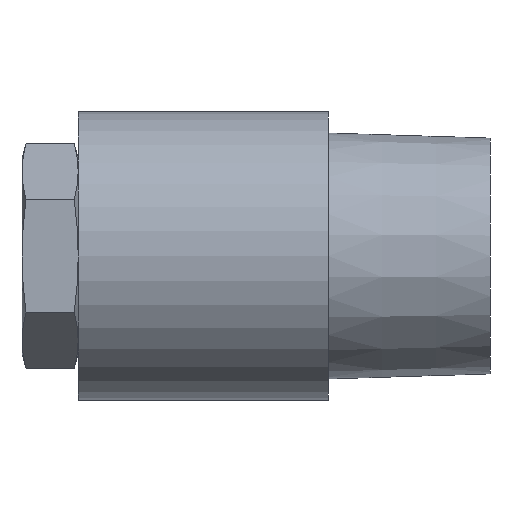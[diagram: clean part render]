
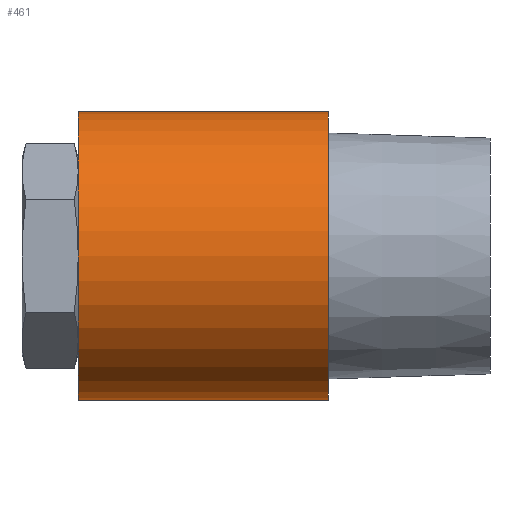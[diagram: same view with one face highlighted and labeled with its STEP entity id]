
A CAD part, left-side view. The second image highlights one B-rep face of the part: STEP entity #461.
In plain terms, the highlighted cylindrical face has radius 12.6 mm (diameter 25.2 mm), a full revolution.
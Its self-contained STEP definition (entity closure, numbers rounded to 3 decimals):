
#61=B_SPLINE_CURVE_WITH_KNOTS('',3,(#711,#712,#713,#714),.UNSPECIFIED.,
 .F.,.F.,(4,4),(0.,0.003),.UNSPECIFIED.);
#62=B_SPLINE_CURVE_WITH_KNOTS('',3,(#717,#718,#719,#720,#721,#722,#723),
 .UNSPECIFIED.,.F.,.F.,(4,1,1,1,4),(0.054,0.057,
0.06,0.064,0.067),.UNSPECIFIED.);
#63=B_SPLINE_CURVE_WITH_KNOTS('',3,(#725,#726,#727,#728),.UNSPECIFIED.,
 .F.,.F.,(4,4),(0.012,0.015),.UNSPECIFIED.);
#64=B_SPLINE_CURVE_WITH_KNOTS('',3,(#730,#731,#732,#733,#734,#735,#736),
 .UNSPECIFIED.,.F.,.F.,(4,1,1,1,4),(0.,0.002,0.005,
0.007,0.01),.UNSPECIFIED.);
#65=B_SPLINE_CURVE_WITH_KNOTS('',3,(#738,#739,#740,#741),.UNSPECIFIED.,
 .F.,.F.,(4,4),(0.,0.003),.UNSPECIFIED.);
#66=B_SPLINE_CURVE_WITH_KNOTS('',3,(#743,#744,#745,#746,#747,#748,#749),
 .UNSPECIFIED.,.F.,.F.,(4,1,1,1,4),(0.024,0.027,
0.03,0.034,0.037),.UNSPECIFIED.);
#67=B_SPLINE_CURVE_WITH_KNOTS('',3,(#751,#752,#753,#754),.UNSPECIFIED.,
 .F.,.F.,(4,4),(0.012,0.015),.UNSPECIFIED.);
#68=B_SPLINE_CURVE_WITH_KNOTS('',3,(#756,#757,#758,#759,#760,#761,#762),
 .UNSPECIFIED.,.F.,.F.,(4,1,1,1,4),(0.,0.002,
0.005,0.007,0.01),
 .UNSPECIFIED.);
#93=ORIENTED_EDGE('',*,*,#223,.F.);
#94=ORIENTED_EDGE('',*,*,#224,.F.);
#95=ORIENTED_EDGE('',*,*,#225,.F.);
#96=ORIENTED_EDGE('',*,*,#226,.F.);
#97=ORIENTED_EDGE('',*,*,#227,.F.);
#98=ORIENTED_EDGE('',*,*,#228,.F.);
#99=ORIENTED_EDGE('',*,*,#229,.F.);
#100=ORIENTED_EDGE('',*,*,#230,.F.);
#101=ORIENTED_EDGE('',*,*,#231,.F.);
#102=ORIENTED_EDGE('',*,*,#232,.T.);
#223=EDGE_CURVE('',#288,#288,#331,.T.);
#224=EDGE_CURVE('',#289,#290,#61,.T.);
#225=EDGE_CURVE('',#291,#289,#62,.T.);
#226=EDGE_CURVE('',#292,#291,#63,.T.);
#227=EDGE_CURVE('',#293,#292,#64,.T.);
#228=EDGE_CURVE('',#294,#293,#65,.T.);
#229=EDGE_CURVE('',#295,#294,#66,.T.);
#230=EDGE_CURVE('',#296,#295,#67,.T.);
#231=EDGE_CURVE('',#290,#296,#68,.T.);
#232=EDGE_CURVE('',#297,#297,#332,.T.);
#288=VERTEX_POINT('',#710);
#289=VERTEX_POINT('',#715);
#290=VERTEX_POINT('',#716);
#291=VERTEX_POINT('',#724);
#292=VERTEX_POINT('',#729);
#293=VERTEX_POINT('',#737);
#294=VERTEX_POINT('',#742);
#295=VERTEX_POINT('',#750);
#296=VERTEX_POINT('',#755);
#297=VERTEX_POINT('',#764);
#331=CIRCLE('',#511,12.6);
#332=CIRCLE('',#512,12.6);
#358=EDGE_LOOP('',(#93));
#359=EDGE_LOOP('',(#94,#95,#96,#97,#98,#99,#100,#101));
#360=EDGE_LOOP('',(#102));
#406=FACE_BOUND('',#358,.T.);
#407=FACE_BOUND('',#359,.T.);
#408=FACE_BOUND('',#360,.T.);
#454=CYLINDRICAL_SURFACE('',#510,12.6);
#461=ADVANCED_FACE('',(#406,#407,#408),#454,.T.);
#510=AXIS2_PLACEMENT_3D('',#708,#575,#576);
#511=AXIS2_PLACEMENT_3D('',#709,#577,#578);
#512=AXIS2_PLACEMENT_3D('',#763,#579,#580);
#575=DIRECTION('',(0.,-1.,0.));
#576=DIRECTION('',(1.,0.,0.));
#577=DIRECTION('',(0.,-1.,0.));
#578=DIRECTION('',(1.,0.,0.));
#579=DIRECTION('',(0.,-1.,0.));
#580=DIRECTION('',(1.,0.,0.));
#708=CARTESIAN_POINT('',(0.,-8.16,0.));
#709=CARTESIAN_POINT('',(0.,7.7,0.));
#710=CARTESIAN_POINT('',(12.6,7.7,0.));
#711=CARTESIAN_POINT('',(11.1,25.272,5.962));
#712=CARTESIAN_POINT('',(10.883,24.441,6.366));
#713=CARTESIAN_POINT('',(10.685,23.576,6.684));
#714=CARTESIAN_POINT('',(10.523,22.675,6.931));
#715=CARTESIAN_POINT('',(11.1,25.272,5.962));
#716=CARTESIAN_POINT('',(10.523,22.675,6.931));
#717=CARTESIAN_POINT('',(11.1,25.272,-5.962));
#718=CARTESIAN_POINT('',(11.526,25.94,-5.17));
#719=CARTESIAN_POINT('',(12.288,27.031,-3.347));
#720=CARTESIAN_POINT('',(12.756,27.659,0.013));
#721=CARTESIAN_POINT('',(12.289,27.032,3.341));
#722=CARTESIAN_POINT('',(11.522,25.935,5.176));
#723=CARTESIAN_POINT('',(11.1,25.272,5.962));
#724=CARTESIAN_POINT('',(11.1,25.272,-5.962));
#725=CARTESIAN_POINT('',(10.523,22.675,-6.931));
#726=CARTESIAN_POINT('',(10.684,23.571,-6.685));
#727=CARTESIAN_POINT('',(10.882,24.437,-6.368));
#728=CARTESIAN_POINT('',(11.1,25.272,-5.962));
#729=CARTESIAN_POINT('',(10.523,22.675,-6.931));
#730=CARTESIAN_POINT('',(10.523,13.725,-6.931));
#731=CARTESIAN_POINT('',(10.248,14.37,-7.347));
#732=CARTESIAN_POINT('',(9.744,15.776,-8.004));
#733=CARTESIAN_POINT('',(9.414,18.187,-8.373));
#734=CARTESIAN_POINT('',(9.742,20.624,-8.006));
#735=CARTESIAN_POINT('',(10.248,22.029,-7.348));
#736=CARTESIAN_POINT('',(10.523,22.675,-6.931));
#737=CARTESIAN_POINT('',(10.523,13.725,-6.931));
#738=CARTESIAN_POINT('',(11.1,11.128,-5.962));
#739=CARTESIAN_POINT('',(10.883,11.959,-6.366));
#740=CARTESIAN_POINT('',(10.685,12.824,-6.684));
#741=CARTESIAN_POINT('',(10.523,13.725,-6.931));
#742=CARTESIAN_POINT('',(11.1,11.128,-5.962));
#743=CARTESIAN_POINT('',(11.1,11.128,5.962));
#744=CARTESIAN_POINT('',(11.522,10.465,5.176));
#745=CARTESIAN_POINT('',(12.286,9.372,3.352));
#746=CARTESIAN_POINT('',(12.756,8.741,0.01));
#747=CARTESIAN_POINT('',(12.292,9.364,-3.333));
#748=CARTESIAN_POINT('',(11.527,10.457,-5.167));
#749=CARTESIAN_POINT('',(11.1,11.128,-5.962));
#750=CARTESIAN_POINT('',(11.1,11.128,5.962));
#751=CARTESIAN_POINT('',(10.523,13.725,6.931));
#752=CARTESIAN_POINT('',(10.685,12.824,6.684));
#753=CARTESIAN_POINT('',(10.886,11.95,6.362));
#754=CARTESIAN_POINT('',(11.1,11.128,5.962));
#755=CARTESIAN_POINT('',(10.523,13.725,6.931));
#756=CARTESIAN_POINT('',(10.523,22.675,6.931));
#757=CARTESIAN_POINT('',(10.248,22.03,7.347));
#758=CARTESIAN_POINT('',(9.744,20.624,8.004));
#759=CARTESIAN_POINT('',(9.414,18.213,8.373));
#760=CARTESIAN_POINT('',(9.742,15.776,8.006));
#761=CARTESIAN_POINT('',(10.248,14.371,7.348));
#762=CARTESIAN_POINT('',(10.523,13.725,6.931));
#763=CARTESIAN_POINT('',(0.,29.5,0.));
#764=CARTESIAN_POINT('',(12.6,29.5,0.));
